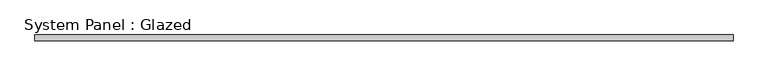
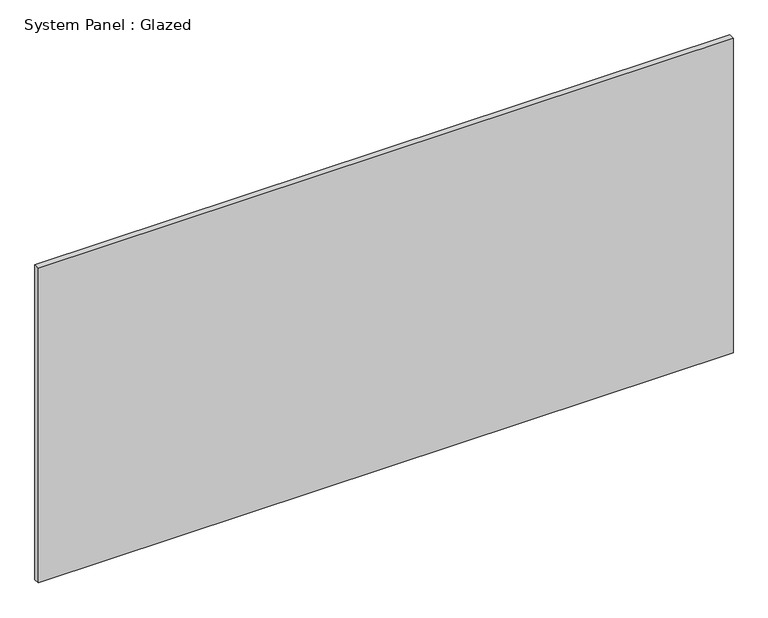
"""IFC4 building model written with IfcOpenShell, lengths in millimetres: plate geometry, System Panel : Glazed."""

from ifc_helpers import new_model, si_unit, origin, origin_with_axes, place, context, project, spatial, polyline, outline, extrude, source, transform, mapped, element, save


def system_panel_glazed_00a131de(model_context):
    return source(origin(), model_context, "Body", "SweptSolid", [
        extrude(outline(polyline([(1492.2499999, 19.05), (-1492.2499999, 19.05), (-1492.2499999, 44.45), (1492.2499999, 44.45), (1492.2499999, 19.05)])), origin_with_axes(), (0.0, 0.0, 1.0), 1428.75),
    ])


if __name__ == "__main__":
    model = new_model("IFC4")
    model_context = context("Model", 3, world=origin())
    ifc_project = project(units=[si_unit("LENGTHUNIT", "METRE", prefix="MILLI")], contexts=[model_context])
    site = spatial("IfcSite", under=ifc_project)
    building = spatial("IfcBuilding", under=site)
    placement = place(None, origin())
    system_panel_glazed_shape = system_panel_glazed_00a131de(model_context)
    element("IfcPlate", 1, ObjectType="System Panel : Glazed", at=placement, inside=building, context=model_context, shape_type="MappedRepresentation", body=[
        mapped(system_panel_glazed_shape, transform((0.0, 0.0, 0.0), x_axis=(1.0, 0.0, 0.0), y_axis=(0.0, 1.0, 0.0), z_axis=(0.0, 0.0, 1.0))),
    ])
    save(model, "model.ifc")
